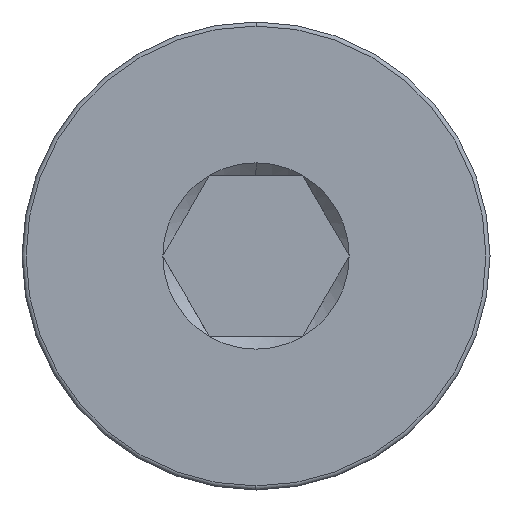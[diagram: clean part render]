
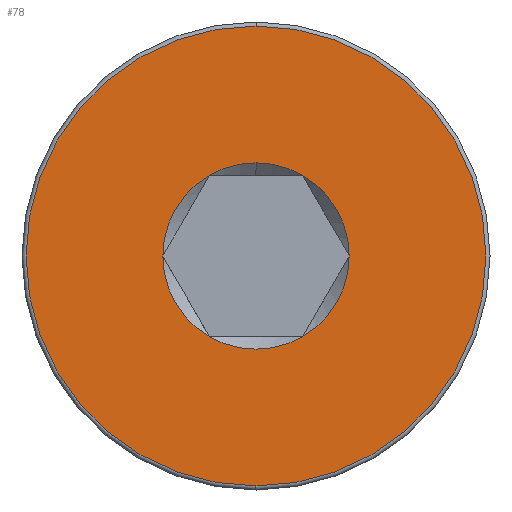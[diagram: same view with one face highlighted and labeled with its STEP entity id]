
A CAD part, left-side view. The second image highlights one B-rep face of the part: STEP entity #78.
In plain terms, the highlighted planar face has unit normal (-1, 0, 0).
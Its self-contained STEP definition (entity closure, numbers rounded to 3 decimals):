
#18 = CIRCLE ( 'NONE', #30, 1.155 ) ;
#23 = CIRCLE ( 'NONE', #673, 1.155 ) ;
#27 = DIRECTION ( 'NONE',  ( 0., 0., -1. ) ) ;
#30 = AXIS2_PLACEMENT_3D ( 'NONE', #152, #143, #273 ) ;
#48 = DIRECTION ( 'NONE',  ( 1., 0., 0. ) ) ;
#51 = DIRECTION ( 'NONE',  ( 0., 0., -1. ) ) ;
#65 = CARTESIAN_POINT ( 'NONE',  ( 0., 0., 0. ) ) ;
#66 = VERTEX_POINT ( 'NONE', #125 ) ;
#78 = ADVANCED_FACE ( 'NONE', ( #385, #194 ), #260, .T. ) ;
#79 = DIRECTION ( 'NONE',  ( 0., 0., 1. ) ) ;
#81 = AXIS2_PLACEMENT_3D ( 'NONE', #653, #411, #478 ) ;
#87 = CARTESIAN_POINT ( 'NONE',  ( 0., 0., 0. ) ) ;
#91 = DIRECTION ( 'NONE',  ( 1., 0., 0. ) ) ;
#105 = AXIS2_PLACEMENT_3D ( 'NONE', #596, #48, #419 ) ;
#111 = DIRECTION ( 'NONE',  ( 1., 0., 0. ) ) ;
#125 = CARTESIAN_POINT ( 'NONE',  ( 0., 1.155, 0. ) ) ;
#131 = AXIS2_PLACEMENT_3D ( 'NONE', #541, #776, #750 ) ;
#143 = DIRECTION ( 'NONE',  ( 1., 0., 0. ) ) ;
#152 = CARTESIAN_POINT ( 'NONE',  ( 0., 0., 0. ) ) ;
#153 = EDGE_LOOP ( 'NONE', ( #597, #269 ) ) ;
#166 = EDGE_LOOP ( 'NONE', ( #730, #267, #408, #720, #484, #189, #779 ) ) ;
#170 = VERTEX_POINT ( 'NONE', #329 ) ;
#189 = ORIENTED_EDGE ( 'NONE', *, *, #424, .T. ) ;
#194 = FACE_BOUND ( 'NONE', #166, .T. ) ;
#216 = AXIS2_PLACEMENT_3D ( 'NONE', #632, #91, #27 ) ;
#219 = CARTESIAN_POINT ( 'NONE',  ( 0., 0.577, 1. ) ) ;
#229 = VERTEX_POINT ( 'NONE', #336 ) ;
#230 = EDGE_CURVE ( 'NONE', #650, #351, #18, .T. ) ;
#239 = CARTESIAN_POINT ( 'NONE',  ( 0., 0., 0. ) ) ;
#260 = PLANE ( 'NONE',  #418 ) ;
#267 = ORIENTED_EDGE ( 'NONE', *, *, #230, .T. ) ;
#269 = ORIENTED_EDGE ( 'NONE', *, *, #437, .T. ) ;
#273 = DIRECTION ( 'NONE',  ( 0., 0., -1. ) ) ;
#301 = VERTEX_POINT ( 'NONE', #701 ) ;
#302 = DIRECTION ( 'NONE',  ( 1., 0., 0. ) ) ;
#329 = CARTESIAN_POINT ( 'NONE',  ( 0., 0.577, -1. ) ) ;
#336 = CARTESIAN_POINT ( 'NONE',  ( 0., 0., -2.85 ) ) ;
#348 = DIRECTION ( 'NONE',  ( 1., 0., 0. ) ) ;
#351 = VERTEX_POINT ( 'NONE', #716 ) ;
#374 = AXIS2_PLACEMENT_3D ( 'NONE', #239, #111, #51 ) ;
#385 = FACE_OUTER_BOUND ( 'NONE', #153, .T. ) ;
#393 = EDGE_CURVE ( 'NONE', #66, #650, #618, .T. ) ;
#402 = CIRCLE ( 'NONE', #105, 1.155 ) ;
#408 = ORIENTED_EDGE ( 'NONE', *, *, #760, .T. ) ;
#409 = AXIS2_PLACEMENT_3D ( 'NONE', #65, #599, #421 ) ;
#411 = DIRECTION ( 'NONE',  ( 1., 0., 0. ) ) ;
#418 = AXIS2_PLACEMENT_3D ( 'NONE', #626, #504, #79 ) ;
#419 = DIRECTION ( 'NONE',  ( 0., 0., -1. ) ) ;
#421 = DIRECTION ( 'NONE',  ( 0., 0., 1. ) ) ;
#424 = EDGE_CURVE ( 'NONE', #670, #170, #402, .T. ) ;
#437 = EDGE_CURVE ( 'NONE', #229, #301, #480, .T. ) ;
#458 = CIRCLE ( 'NONE', #216, 1.155 ) ;
#474 = EDGE_CURVE ( 'NONE', #524, #714, #732, .T. ) ;
#478 = DIRECTION ( 'NONE',  ( 0., 0., -1. ) ) ;
#480 = CIRCLE ( 'NONE', #131, 2.85 ) ;
#484 = ORIENTED_EDGE ( 'NONE', *, *, #623, .T. ) ;
#504 = DIRECTION ( 'NONE',  ( -1., 0., 0. ) ) ;
#524 = VERTEX_POINT ( 'NONE', #762 ) ;
#540 = DIRECTION ( 'NONE',  ( 0., 0., -1. ) ) ;
#541 = CARTESIAN_POINT ( 'NONE',  ( 0., 0., 0. ) ) ;
#549 = CARTESIAN_POINT ( 'NONE',  ( 0., 0., 0. ) ) ;
#577 = AXIS2_PLACEMENT_3D ( 'NONE', #87, #348, #765 ) ;
#596 = CARTESIAN_POINT ( 'NONE',  ( 0., 0., 0. ) ) ;
#597 = ORIENTED_EDGE ( 'NONE', *, *, #685, .T. ) ;
#599 = DIRECTION ( 'NONE',  ( -1., 0., 0. ) ) ;
#618 = CIRCLE ( 'NONE', #81, 1.155 ) ;
#623 = EDGE_CURVE ( 'NONE', #714, #670, #458, .T. ) ;
#626 = CARTESIAN_POINT ( 'NONE',  ( 0., 0., 0. ) ) ;
#632 = CARTESIAN_POINT ( 'NONE',  ( 0., 0., 0. ) ) ;
#645 = CIRCLE ( 'NONE', #409, 2.85 ) ;
#650 = VERTEX_POINT ( 'NONE', #219 ) ;
#652 = CARTESIAN_POINT ( 'NONE',  ( 0., -0.577, -1. ) ) ;
#653 = CARTESIAN_POINT ( 'NONE',  ( 0., 0., 0. ) ) ;
#670 = VERTEX_POINT ( 'NONE', #652 ) ;
#673 = AXIS2_PLACEMENT_3D ( 'NONE', #549, #302, #540 ) ;
#685 = EDGE_CURVE ( 'NONE', #301, #229, #645, .T. ) ;
#701 = CARTESIAN_POINT ( 'NONE',  ( 0., 0., 2.85 ) ) ;
#714 = VERTEX_POINT ( 'NONE', #729 ) ;
#716 = CARTESIAN_POINT ( 'NONE',  ( 0., 0., 1.155 ) ) ;
#720 = ORIENTED_EDGE ( 'NONE', *, *, #474, .T. ) ;
#729 = CARTESIAN_POINT ( 'NONE',  ( 0., -1.155, 0. ) ) ;
#730 = ORIENTED_EDGE ( 'NONE', *, *, #393, .T. ) ;
#732 = CIRCLE ( 'NONE', #577, 1.155 ) ;
#745 = CIRCLE ( 'NONE', #374, 1.155 ) ;
#750 = DIRECTION ( 'NONE',  ( 0., 0., 1. ) ) ;
#760 = EDGE_CURVE ( 'NONE', #351, #524, #745, .T. ) ;
#762 = CARTESIAN_POINT ( 'NONE',  ( 0., -0.577, 1. ) ) ;
#765 = DIRECTION ( 'NONE',  ( 0., 0., -1. ) ) ;
#772 = EDGE_CURVE ( 'NONE', #170, #66, #23, .T. ) ;
#776 = DIRECTION ( 'NONE',  ( -1., 0., 0. ) ) ;
#779 = ORIENTED_EDGE ( 'NONE', *, *, #772, .T. ) ;
